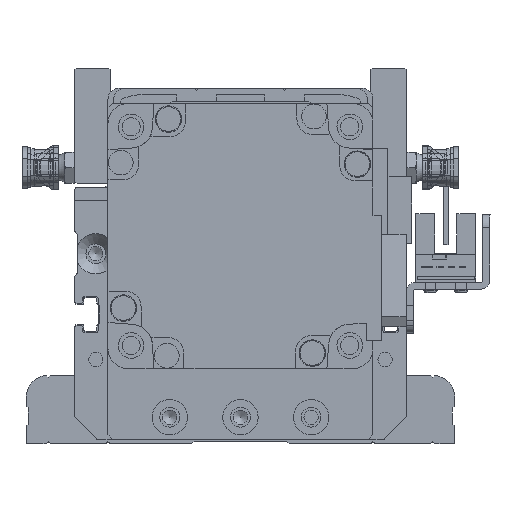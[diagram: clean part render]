
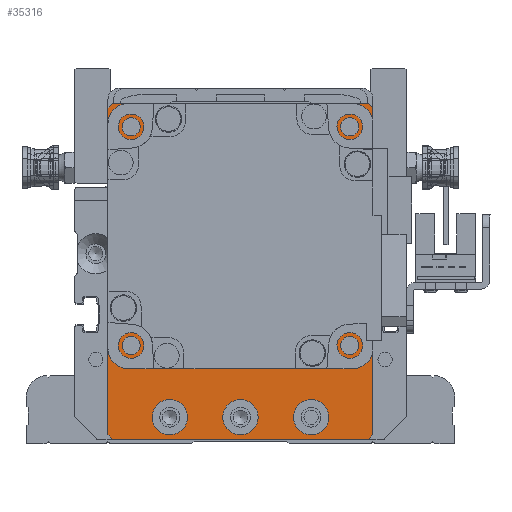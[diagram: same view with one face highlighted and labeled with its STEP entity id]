
A CAD part, front view. The second image highlights one B-rep face of the part: STEP entity #35316.
In plain terms, the highlighted planar face has unit normal (0, -1, 0) as drawn and (0, 0, 1) by its records, which use the part's own axes.
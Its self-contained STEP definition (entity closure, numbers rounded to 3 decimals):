
#2313=FACE_BOUND('',#6011,.T.);
#2314=FACE_BOUND('',#6012,.T.);
#2315=FACE_BOUND('',#6013,.T.);
#2316=FACE_BOUND('',#6014,.T.);
#2317=FACE_BOUND('',#6015,.T.);
#2318=FACE_BOUND('',#6016,.T.);
#2319=FACE_BOUND('',#6017,.T.);
#2320=FACE_BOUND('',#6018,.T.);
#3828=FACE_OUTER_BOUND('',#6010,.T.);
#6010=EDGE_LOOP('',(#30471,#30472,#30473,#30474,#30475,#30476,#30477,#30478));
#6011=EDGE_LOOP('',(#30479));
#6012=EDGE_LOOP('',(#30480));
#6013=EDGE_LOOP('',(#30481));
#6014=EDGE_LOOP('',(#30482));
#6015=EDGE_LOOP('',(#30483));
#6016=EDGE_LOOP('',(#30484));
#6017=EDGE_LOOP('',(#30485));
#6018=EDGE_LOOP('',(#30486));
#8032=CIRCLE('',#39393,25.);
#8033=CIRCLE('',#39394,2.067);
#8034=CIRCLE('',#39395,2.067);
#8035=CIRCLE('',#39396,2.067);
#8036=CIRCLE('',#39397,2.067);
#8037=CIRCLE('',#39398,4.);
#8038=CIRCLE('',#39399,4.);
#8039=CIRCLE('',#39400,4.);
#10544=LINE('',#61001,#13340);
#10546=LINE('',#61005,#13342);
#10549=LINE('',#61011,#13345);
#10550=LINE('',#61013,#13346);
#10551=LINE('',#61015,#13347);
#10552=LINE('',#61017,#13348);
#10553=LINE('',#61019,#13349);
#10554=LINE('',#61020,#13350);
#13340=VECTOR('',#48348,10.);
#13342=VECTOR('',#48352,10.);
#13345=VECTOR('',#48357,10.);
#13346=VECTOR('',#48358,10.);
#13347=VECTOR('',#48359,10.);
#13348=VECTOR('',#48360,10.);
#13349=VECTOR('',#48361,10.);
#13350=VECTOR('',#48362,10.);
#16738=VERTEX_POINT('',#60998);
#16739=VERTEX_POINT('',#61000);
#16740=VERTEX_POINT('',#61004);
#16742=VERTEX_POINT('',#61010);
#16743=VERTEX_POINT('',#61012);
#16744=VERTEX_POINT('',#61014);
#16745=VERTEX_POINT('',#61016);
#16746=VERTEX_POINT('',#61018);
#16747=VERTEX_POINT('',#61021);
#16748=VERTEX_POINT('',#61023);
#16749=VERTEX_POINT('',#61025);
#16750=VERTEX_POINT('',#61027);
#16751=VERTEX_POINT('',#61029);
#16752=VERTEX_POINT('',#61031);
#16753=VERTEX_POINT('',#61033);
#16754=VERTEX_POINT('',#61035);
#21456=EDGE_CURVE('',#16739,#16738,#10544,.T.);
#21458=EDGE_CURVE('',#16739,#16740,#10546,.T.);
#21461=EDGE_CURVE('',#16742,#16738,#10549,.T.);
#21462=EDGE_CURVE('',#16742,#16743,#10550,.T.);
#21463=EDGE_CURVE('',#16744,#16743,#10551,.T.);
#21464=EDGE_CURVE('',#16744,#16745,#10552,.T.);
#21465=EDGE_CURVE('',#16746,#16745,#10553,.T.);
#21466=EDGE_CURVE('',#16746,#16740,#10554,.T.);
#21467=EDGE_CURVE('',#16747,#16747,#8032,.T.);
#21468=EDGE_CURVE('',#16748,#16748,#8033,.T.);
#21469=EDGE_CURVE('',#16749,#16749,#8034,.T.);
#21470=EDGE_CURVE('',#16750,#16750,#8035,.T.);
#21471=EDGE_CURVE('',#16751,#16751,#8036,.T.);
#21472=EDGE_CURVE('',#16752,#16752,#8037,.T.);
#21473=EDGE_CURVE('',#16753,#16753,#8038,.T.);
#21474=EDGE_CURVE('',#16754,#16754,#8039,.T.);
#30471=ORIENTED_EDGE('',*,*,#21458,.F.);
#30472=ORIENTED_EDGE('',*,*,#21456,.T.);
#30473=ORIENTED_EDGE('',*,*,#21461,.F.);
#30474=ORIENTED_EDGE('',*,*,#21462,.T.);
#30475=ORIENTED_EDGE('',*,*,#21463,.F.);
#30476=ORIENTED_EDGE('',*,*,#21464,.T.);
#30477=ORIENTED_EDGE('',*,*,#21465,.F.);
#30478=ORIENTED_EDGE('',*,*,#21466,.T.);
#30479=ORIENTED_EDGE('',*,*,#21467,.T.);
#30480=ORIENTED_EDGE('',*,*,#21468,.T.);
#30481=ORIENTED_EDGE('',*,*,#21469,.T.);
#30482=ORIENTED_EDGE('',*,*,#21470,.T.);
#30483=ORIENTED_EDGE('',*,*,#21471,.T.);
#30484=ORIENTED_EDGE('',*,*,#21472,.T.);
#30485=ORIENTED_EDGE('',*,*,#21473,.T.);
#30486=ORIENTED_EDGE('',*,*,#21474,.T.);
#33723=PLANE('',#39392);
#35316=ADVANCED_FACE('',(#3828,#2313,#2314,#2315,#2316,#2317,#2318,#2319,
#2320),#33723,.T.);
#39392=AXIS2_PLACEMENT_3D('',#61009,#48355,#48356);
#39393=AXIS2_PLACEMENT_3D('',#61022,#48363,#48364);
#39394=AXIS2_PLACEMENT_3D('',#61024,#48365,#48366);
#39395=AXIS2_PLACEMENT_3D('',#61026,#48367,#48368);
#39396=AXIS2_PLACEMENT_3D('',#61028,#48369,#48370);
#39397=AXIS2_PLACEMENT_3D('',#61030,#48371,#48372);
#39398=AXIS2_PLACEMENT_3D('',#61032,#48373,#48374);
#39399=AXIS2_PLACEMENT_3D('',#61034,#48375,#48376);
#39400=AXIS2_PLACEMENT_3D('',#61036,#48377,#48378);
#48348=DIRECTION('',(1.,0.,0.));
#48352=DIRECTION('',(-0.707,0.707,0.));
#48355=DIRECTION('center_axis',(0.,0.,1.));
#48356=DIRECTION('ref_axis',(1.,0.,0.));
#48357=DIRECTION('',(-0.707,-0.707,0.));
#48358=DIRECTION('',(0.,1.,0.));
#48359=DIRECTION('',(0.707,-0.707,0.));
#48360=DIRECTION('',(-1.,0.,0.));
#48361=DIRECTION('',(0.707,0.707,0.));
#48362=DIRECTION('',(0.,-1.,0.));
#48363=DIRECTION('center_axis',(0.,0.,-1.));
#48364=DIRECTION('ref_axis',(1.,0.,0.));
#48365=DIRECTION('center_axis',(0.,0.,-1.));
#48366=DIRECTION('ref_axis',(1.,0.,0.));
#48367=DIRECTION('center_axis',(0.,0.,-1.));
#48368=DIRECTION('ref_axis',(1.,0.,0.));
#48369=DIRECTION('center_axis',(0.,0.,-1.));
#48370=DIRECTION('ref_axis',(1.,0.,0.));
#48371=DIRECTION('center_axis',(0.,0.,-1.));
#48372=DIRECTION('ref_axis',(1.,0.,0.));
#48373=DIRECTION('center_axis',(0.,0.,-1.));
#48374=DIRECTION('ref_axis',(1.,0.,0.));
#48375=DIRECTION('center_axis',(0.,0.,-1.));
#48376=DIRECTION('ref_axis',(1.,0.,0.));
#48377=DIRECTION('center_axis',(0.,0.,-1.));
#48378=DIRECTION('ref_axis',(1.,0.,0.));
#60998=CARTESIAN_POINT('',(29.,-38.,59.));
#61000=CARTESIAN_POINT('',(-29.,-38.,59.));
#61001=CARTESIAN_POINT('',(-30.,-38.,59.));
#61004=CARTESIAN_POINT('',(-30.,-37.,59.));
#61005=CARTESIAN_POINT('',(-31.5,-35.5,59.));
#61009=CARTESIAN_POINT('Origin',(0.,0.,
59.));
#61010=CARTESIAN_POINT('',(30.,-37.,59.));
#61011=CARTESIAN_POINT('',(31.5,-35.5,59.));
#61012=CARTESIAN_POINT('',(30.,37.,59.));
#61013=CARTESIAN_POINT('',(30.,-38.,59.));
#61014=CARTESIAN_POINT('',(29.,38.,59.));
#61015=CARTESIAN_POINT('',(31.5,35.5,59.));
#61016=CARTESIAN_POINT('',(-29.,38.,59.));
#61017=CARTESIAN_POINT('',(30.,38.,59.));
#61018=CARTESIAN_POINT('',(-30.,37.,59.));
#61019=CARTESIAN_POINT('',(-31.5,35.5,59.));
#61020=CARTESIAN_POINT('',(-30.,38.,59.));
#61021=CARTESIAN_POINT('',(-25.,8.,59.));
#61022=CARTESIAN_POINT('Origin',(0.,8.,59.));
#61023=CARTESIAN_POINT('',(22.682,-16.749,59.));
#61024=CARTESIAN_POINT('Origin',(24.749,-16.749,59.));
#61025=CARTESIAN_POINT('',(22.682,32.749,59.));
#61026=CARTESIAN_POINT('Origin',(24.749,32.749,59.));
#61027=CARTESIAN_POINT('',(-26.816,32.749,59.));
#61028=CARTESIAN_POINT('Origin',(-24.749,32.749,59.));
#61029=CARTESIAN_POINT('',(-26.816,-16.749,59.));
#61030=CARTESIAN_POINT('Origin',(-24.749,-16.749,59.));
#61031=CARTESIAN_POINT('',(12.,-33.,59.));
#61032=CARTESIAN_POINT('Origin',(16.,-33.,59.));
#61033=CARTESIAN_POINT('',(-4.,-33.,59.));
#61034=CARTESIAN_POINT('Origin',(0.,-33.,59.));
#61035=CARTESIAN_POINT('',(-20.,-33.,59.));
#61036=CARTESIAN_POINT('Origin',(-16.,-33.,59.));
